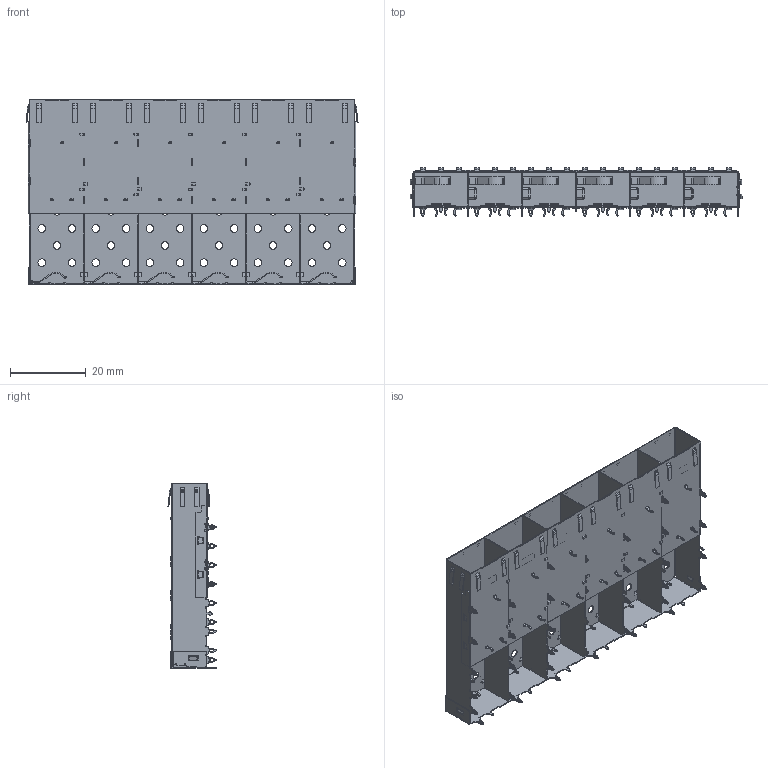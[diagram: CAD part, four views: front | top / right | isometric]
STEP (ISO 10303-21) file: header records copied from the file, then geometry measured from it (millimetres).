
FILE_DESCRIPTION (( 'STEP AP203' ), '1' );
FILE_NAME ('1X6 SFP 衄堎挴.STEP', '2023-12-23T00:56:34', ( '' ), ( '' ), 'SwSTEP 2.0', 'SolidWorks 2018', '' );
FILE_SCHEMA (( 'CONFIG_CONTROL_DESIGN' ));
Length unit declared in the file: millimetre
Products named in the file (1): 1X6 SFP 衄堎挴
Bounding box: 87.56 x 12.71 x 48.75 mm (x, y, z)
Volume: 2876.5 mm3; surface area: 23433.9 mm2
Topology: 1 solids, 1 shells, 3828 faces, 10214 edges, 6437 vertices
Faces by surface type: plane 2161, cylinder 1635, torus 30, cone 2
Entity records: 119267 total; most frequent: DIRECTION 21060, CARTESIAN_POINT 20828, ORIENTED_EDGE 20428, EDGE_CURVE 10214, AXIS2_PLACEMENT_3D 7133, VECTOR 6794, LINE 6794, VERTEX_POINT 6437
